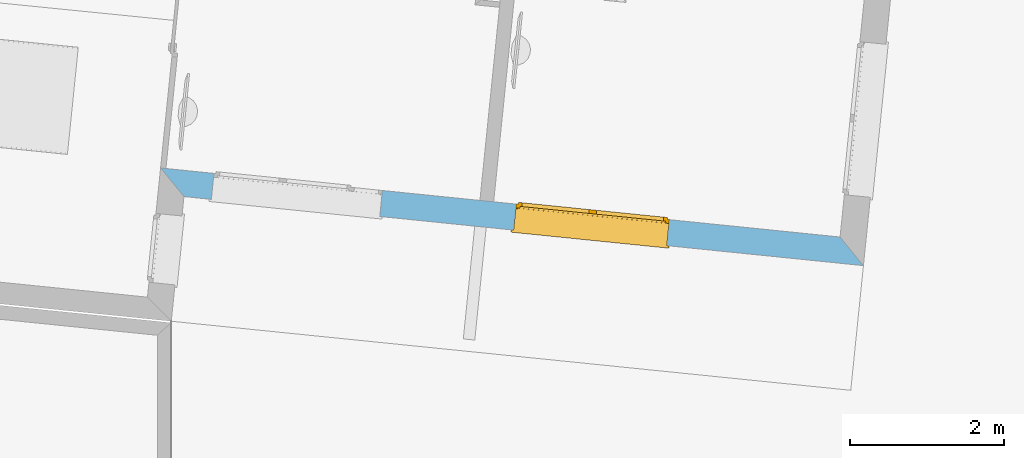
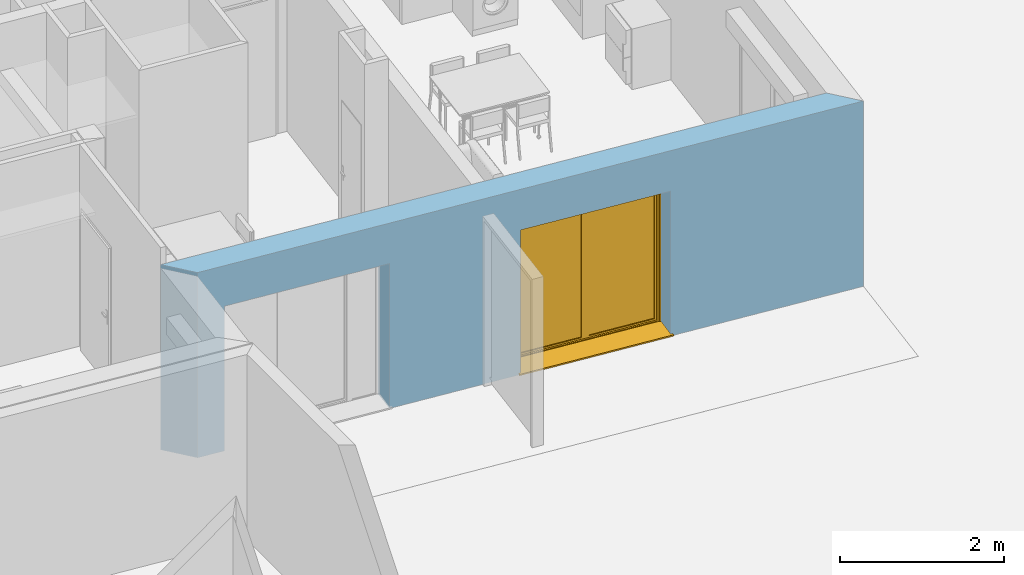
# One storey, part 59 of 171: 1 window, 2 openings, plus 1 element that does not belong to this part.
"""IFC2X3 building model written with IfcOpenShell, lengths in millimetres."""

from ifc_helpers import new_model, entity, si_unit, converted_unit, derived_unit, money_unit, direction, frame, origin_with_axes, place, context, subcontext, project, spatial, polyline, outline, extrude, open_shell, faceted_brep, surface_model, source, transform, mapped, material, layer, layer_set, layer_usage, type_object, element, fill, save


model = new_model("IFC2X3")

# Units and contexts
model_context = context("Model", 3, precision=0.01, world=origin_with_axes(), true_north=direction((0.0, 1.0)))
body_context = subcontext(model_context, "Body", "Model", "MODEL_VIEW")
ifc_project = project(units=[si_unit("LENGTHUNIT", "METRE", prefix="MILLI"), si_unit("AREAUNIT", "SQUARE_METRE"), si_unit("VOLUMEUNIT", "CUBIC_METRE"), converted_unit("PLANEANGLEUNIT", "DEGREE", entity("IfcPlaneAngleMeasure", 0.0174532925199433), si_unit("PLANEANGLEUNIT", "RADIAN"), dimensions=[0, 0, 0, 0, 0, 0, 0]), money_unit("USD"), converted_unit("TIMEUNIT", "Year", entity("IfcTimeMeasure", 31557600.0), si_unit("TIMEUNIT", "SECOND"), dimensions=[0, 0, 1, 0, 0, 0, 0]), si_unit("MASSUNIT", "GRAM", prefix="KILO"), si_unit("THERMODYNAMICTEMPERATUREUNIT", "DEGREE_CELSIUS"), si_unit("LUMINOUSINTENSITYUNIT", "LUMEN"), si_unit("ENERGYUNIT", "JOULE", prefix="MEGA"), derived_unit("THERMALCONDUCTANCEUNIT", [(si_unit("POWERUNIT", "WATT"), 1), (si_unit("LENGTHUNIT", "METRE"), -1), (si_unit("THERMODYNAMICTEMPERATUREUNIT", "KELVIN"), -1)]), derived_unit("SPECIFICHEATCAPACITYUNIT", [(si_unit("ENERGYUNIT", "JOULE"), 1), (si_unit("MASSUNIT", "GRAM", prefix="KILO"), -1), (si_unit("THERMODYNAMICTEMPERATUREUNIT", "KELVIN"), -1)]), derived_unit("MASSDENSITYUNIT", [(si_unit("MASSUNIT", "GRAM", prefix="KILO"), 1), (si_unit("VOLUMEUNIT", "CUBIC_METRE"), -1)])], contexts=[model_context])

# Site, building, storey
site_placement = place(None, origin_with_axes())
site = spatial("IfcSite", under=ifc_project, at=site_placement, Name="Site", CompositionType="ELEMENT")
building_placement = place(site_placement, origin_with_axes())
building = spatial("IfcBuilding", under=site, at=building_placement, Name="Bâtiment", CompositionType="ELEMENT")
storey_placement = place(building_placement, frame((0.0, 0.0, 3000.0), z_axis=(0.0, 0.0, 1.0), x_axis=(1.0, 0.0, 0.0)))
storey = spatial("IfcBuildingStorey", under=building, at=storey_placement, Name="rdc", CompositionType="ELEMENT", Elevation=3000.0)

# Wall, openings, window
ifc_material_1 = material(Name="Parpaing 312445824")
ifc_layer_1 = layer(ifc_material_1, 180.0, ventilated="UNKNOWN")
ifc_material_2 = material(Name="Isolant styromousse 301821074")
ifc_layer_2 = layer(ifc_material_2, 160.0, ventilated="UNKNOWN")
ifc_layer_set = layer_set([ifc_layer_1, ifc_layer_2], Name="isol int 18+16 0018356637")
ifc_layer_usage = layer_usage(ifc_layer_set, "AXIS2", "POSITIVE", 0.0)
wall_type = type_object("IfcWallType", Name="isol int 18+16 0018356637 340", PredefinedType="NOTDEFINED")
wall_placement = place(storey_placement, frame((2229820.133205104, -620392.5899683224, 0.0), z_axis=(0.0, 0.0, 1.0), x_axis=(0.994875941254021, -0.1011032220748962, 0.0)))
wall = element("IfcWallStandardCase", 1, at=wall_placement, inside=storey, type_object=wall_type, material=ifc_layer_usage, Name="Mur-142", context=body_context, shape_type="SweptSolid", body=[
    extrude(outline(polyline([(0.0, 0.0), (8878.452480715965, 0.0), (8538.452480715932, 339.9999999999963), (-339.9999999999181, 339.9999999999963), (0.0, 0.0)])), origin_with_axes(), (0.0, 0.0, 1.0), 2750.0),
])
opening_1_placement = place(wall_placement, frame((1458.062560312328, 0.0, 0.0), z_axis=(0.0, 0.0, 1.0), x_axis=(1.0, 0.0, 0.0)))
element("IfcOpeningElement", 2, at=opening_1_placement, cuts=wall, Name="Fen-133", context=body_context, shape_type="Brep", body=[
    faceted_brep([(-1100.000000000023, 529.9999999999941, 2150.0), (1099.999999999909, 529.9999999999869, 2150.0), (1100.000000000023, 1234.040591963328, 2150.0), (-1099.999999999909, 1234.040591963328, 2150.0), (-1100.000000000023, 529.9999999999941, 2400.0), (1099.999999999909, 529.9999999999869, 2400.0), (1100.000000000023, 289.999999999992, 2150.0), (1100.000000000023, 289.999999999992, 0.0), (1100.000000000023, 1234.040591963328, 0.0), (-1099.999999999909, 1234.040591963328, 0.0), (-1100.000000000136, 289.9999999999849, 2150.0), (-1100.000000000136, 289.9999999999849, 0.0), (-1100.000000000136, 279.9999999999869, 2150.0), (-1100.000000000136, 279.9999999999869, 2400.0), (1100.000000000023, 279.999999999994, 2400.0), (1100.000000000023, 279.999999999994, 2150.0), (1099.999999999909, -894.0405919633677, 2150.0), (1099.999999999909, -894.0405919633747, 0.0), (-1100.000000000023, -894.0405919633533, 0.0), (-1100.000000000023, -894.0405919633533, 2150.0)], [[[0, 1, 2, 3]], [[1, 0, 4, 5]], [[1, 6, 7, 8, 2]], [[2, 8, 9, 3]], [[10, 0, 3, 9, 11]], [[0, 10, 12, 13, 4]], [[14, 5, 4, 13]], [[6, 1, 5, 14, 15]], [[6, 15, 16, 17, 7]], [[7, 17, 18, 11, 9, 8]], [[12, 10, 11, 18, 19]], [[12, 15, 14, 13]], [[15, 12, 19, 16]], [[19, 18, 17, 16]]]),
])
opening_2_placement = place(wall_placement, frame((5307.912898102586, 0.0, 0.0), z_axis=(0.0, 0.0, 1.0), x_axis=(1.0, 0.0, 0.0)))
opening_2 = element("IfcOpeningElement", 3, at=opening_2_placement, cuts=wall, Name="Fen-207", context=body_context, shape_type="Brep", body=[
    faceted_brep([(-1000.000000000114, 529.9999999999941, 2150.0), (1000.0, 529.9999999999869, 2150.0), (1000.0, 1234.040591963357, 2150.0), (-1000.0, 1234.040591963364, 2150.0), (-1000.000000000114, 529.9999999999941, 2400.0), (1000.0, 529.9999999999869, 2400.0), (999.9999999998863, 289.9999999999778, 2150.0), (999.9999999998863, 289.9999999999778, 0.0), (1000.0, 1234.040591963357, 0.0), (-1000.0, 1234.040591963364, 0.0), (-1000.000000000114, 289.9999999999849, 2150.0), (-1000.000000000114, 289.9999999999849, 0.0), (-1000.0, 279.9999999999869, 2150.0), (-1000.0, 279.9999999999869, 2400.0), (999.9999999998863, 279.999999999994, 2400.0), (999.9999999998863, 279.999999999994, 2150.0), (999.9999999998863, -894.0405919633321, 2150.0), (999.9999999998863, -894.0405919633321, 0.0), (-1000.0, -894.0405919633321, 0.0), (-1000.0, -894.0405919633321, 2150.0)], [[[0, 1, 2, 3]], [[1, 0, 4, 5]], [[1, 6, 7, 8, 2]], [[2, 8, 9, 3]], [[10, 0, 3, 9, 11]], [[0, 10, 12, 13, 4]], [[14, 5, 4, 13]], [[6, 1, 5, 14, 15]], [[6, 15, 16, 17, 7]], [[7, 17, 18, 11, 9, 8]], [[12, 10, 11, 18, 19]], [[12, 15, 14, 13]], [[15, 12, 19, 16]], [[19, 18, 17, 16]]]),
])
window_style = type_object("IfcWindowStyle", Name="Fenêtre châssis double variable 27", ConstructionType="NOTDEFINED", OperationType="DOUBLE_PANEL_VERTICAL", ParameterTakesPrecedence=False, Sizeable=False)
shared_shape = source(origin_with_axes(), body_context, "Body", "SurfaceModel", [
    surface_model("IfcShellBasedSurfaceModel", [(1000.0, -51.00000000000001, 40.00000000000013), (1000.0, -51.00000000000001, 50.00000000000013), (-1000.0, -51.00000000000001, 50.0), (-1000.0, -51.00000000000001, 40.0), (1030.0, -369.9999999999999, 28.96551724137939), (1030.0, -339.9999999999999, 30.00324289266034), (1000.0, -339.9999999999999, 30.00324289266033), (-1000.0, -339.9999999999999, 30.00324289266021), (-1030.0, -339.9999999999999, 30.00324289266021), (-1030.0, -369.9999999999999, 28.96551724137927), (1030.0, -369.9999999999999, 8.965517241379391), (-1030.0, -369.9999999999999, 8.965517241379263), (1030.0, -359.9999999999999, 18.96551724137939), (-1030.0, -359.9999999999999, 18.96551724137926)], [open_shell([[[0, 1, 2, 3]], [[4, 5, 6, 0, 3, 7, 8, 9]], [[10, 4, 9, 11]], [[12, 10, 11, 13]]])]),
    faceted_brep([(-1000.0, -60.00000000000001, 2400.0), (-997.0, -60.00000000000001, 2400.0), (-997.0, 190.0, 2400.0), (-1000.0, 190.0, 2400.0), (-1000.0, -60.00000000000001, 2150.0), (-997.0, -60.00000000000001, 2150.0), (-997.0, 190.0, 2150.0), (-1000.0, 190.0, 2150.0)], [[[0, 1, 2, 3]], [[4, 5, 1, 0]], [[1, 5, 6, 2]], [[3, 2, 6, 7]], [[0, 3, 7, 4]], [[7, 6, 5, 4]]]),
    faceted_brep([(997.0000000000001, -59.99999999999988, 2400.0), (1000.0, -59.99999999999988, 2400.0), (1000.0, 190.0000000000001, 2400.0), (997.0000000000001, 190.0000000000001, 2400.0), (997.0000000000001, -59.99999999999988, 2150.0), (1000.0, -59.99999999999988, 2150.0), (1000.0, 190.0000000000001, 2150.0), (997.0000000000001, 190.0000000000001, 2150.0)], [[[0, 1, 2, 3]], [[4, 5, 1, 0]], [[1, 5, 6, 2]], [[3, 2, 6, 7]], [[0, 3, 7, 4]], [[7, 6, 5, 4]]]),
    faceted_brep([(-997.0, -60.0, 2150.0), (997.0, -59.99999999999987, 2150.0), (997.0, -59.99999999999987, 2400.0), (-997.0, -60.0, 2400.0), (-997.0, -56.99999999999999, 2150.0), (997.0, -56.99999999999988, 2150.0), (997.0, -56.99999999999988, 2397.0), (997.0, 187.0000000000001, 2397.0), (997.0, 187.0000000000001, 2153.0), (997.0, -37.99999999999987, 2153.0), (997.0, -37.99999999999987, 2150.0), (997.0, 190.0000000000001, 2150.0), (997.0, 190.0000000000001, 2400.0), (-997.0, 190.0, 2400.0), (-997.0, 190.0, 2150.0), (-997.0, -37.99999999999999, 2150.0), (-997.0, -37.99999999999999, 2153.0), (-997.0, 187.0, 2153.0), (-997.0, 187.0, 2397.0), (-997.0, -56.99999999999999, 2397.0)], [[[0, 1, 2, 3]], [[4, 5, 1, 0]], [[1, 5, 6, 7, 8, 9, 10, 11, 12, 2]], [[3, 2, 12, 13]], [[0, 3, 13, 14, 15, 16, 17, 18, 19, 4]], [[19, 6, 5, 4]], [[18, 7, 6, 19]], [[17, 8, 7, 18]], [[16, 9, 8, 17]], [[15, 10, 9, 16]], [[14, 11, 10, 15]], [[13, 12, 11, 14]]]),
    faceted_brep([(-994.0, -40.37442957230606, 2256.419644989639), (-994.0, -41.99999999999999, 2275.0), (-994.0, -40.37442957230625, 2293.580355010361), (-994.0, -35.54711042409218, 2311.596155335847), (-994.0, -27.66471820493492, 2328.5), (-994.0, -16.96675541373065, 2343.77827423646), (-994.0, -3.778274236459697, 2356.96675541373), (-994.0, 11.5, 2367.664718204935), (-994.0, 28.40384466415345, 2375.547110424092), (-994.0, 46.41964498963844, 2380.374429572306), (-994.0, 64.99999999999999, 2382.0), (-994.0, 83.58035501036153, 2380.374429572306), (-994.0, 101.5961553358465, 2375.547110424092), (-994.0, 118.5, 2367.664718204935), (-994.0, 133.7782742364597, 2356.96675541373), (-994.0, 146.9667554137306, 2343.77827423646), (-994.0, 157.6647182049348, 2328.5), (-994.0, 165.5471104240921, 2311.596155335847), (-994.0, 170.3744295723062, 2293.580355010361), (-994.0, 171.9999999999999, 2275.0), (-994.0, 170.3744295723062, 2256.419644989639), (-994.0, 165.5471104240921, 2238.403844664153), (-994.0, 157.6647182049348, 2221.5), (-994.0, 146.9667554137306, 2206.22172576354), (-994.0, 133.7782742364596, 2193.033244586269), (-994.0, 118.4999999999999, 2182.335281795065), (-994.0, 101.5961553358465, 2174.452889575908), (-994.0, 83.58035501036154, 2169.625570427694), (-994.0, 65.00000000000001, 2168.0), (-994.0, 46.4196449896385, 2169.625570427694), (-994.0, 28.40384466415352, 2174.452889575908), (-994.0, 11.50000000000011, 2182.335281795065), (-994.0, -3.778274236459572, 2193.033244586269), (-994.0, -16.9667554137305, 2206.22172576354), (-994.0, -27.66471820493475, 2221.5), (-994.0, -35.54711042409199, 2238.403844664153), (994.0, -40.37442957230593, 2256.419644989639), (994.0, -41.99999999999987, 2275.0), (994.0, -40.37442957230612, 2293.580355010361), (994.0, -35.54711042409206, 2311.596155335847), (994.0, -27.6647182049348, 2328.5), (994.0, -16.96675541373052, 2343.77827423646), (994.0, -3.778274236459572, 2356.96675541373), (994.0, 11.50000000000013, 2367.664718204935), (994.0, 28.40384466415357, 2375.547110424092), (994.0, 46.41964498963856, 2380.374429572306), (994.0, 65.00000000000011, 2382.0), (994.0, 83.58035501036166, 2380.374429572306), (994.0, 101.5961553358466, 2375.547110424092), (994.0, 118.5000000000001, 2367.664718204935), (994.0, 133.7782742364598, 2356.96675541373), (994.0, 146.9667554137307, 2343.77827423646), (994.0, 157.664718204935, 2328.5), (994.0, 165.5471104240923, 2311.596155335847), (994.0, 170.3744295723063, 2293.580355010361), (994.0, 172.0, 2275.0), (994.0, 170.3744295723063, 2256.419644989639), (994.0, 165.5471104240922, 2238.403844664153), (994.0, 157.6647182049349, 2221.5), (994.0, 146.9667554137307, 2206.22172576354), (994.0, 133.7782742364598, 2193.033244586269), (994.0, 118.5000000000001, 2182.335281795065), (994.0, 101.5961553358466, 2174.452889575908), (994.0, 83.58035501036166, 2169.625570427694), (994.0, 65.00000000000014, 2168.0), (994.0, 46.41964498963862, 2169.625570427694), (994.0, 28.40384466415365, 2174.452889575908), (994.0, 11.50000000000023, 2182.335281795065), (994.0, -3.778274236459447, 2193.033244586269), (994.0, -16.96675541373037, 2206.22172576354), (994.0, -27.66471820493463, 2221.5), (994.0, -35.54711042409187, 2238.403844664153)], [[[0, 1, 2, 3, 4, 5, 6, 7, 8, 9, 10, 11, 12, 13, 14, 15, 16, 17, 18, 19, 20, 21, 22, 23, 24, 25, 26, 27, 28, 29, 30, 31, 32, 33, 34, 35]], [[0, 36, 37, 1]], [[1, 37, 38, 2]], [[2, 38, 39, 3]], [[3, 39, 40, 4]], [[4, 40, 41, 5]], [[5, 41, 42, 6]], [[6, 42, 43, 7]], [[7, 43, 44, 8]], [[8, 44, 45, 9]], [[9, 45, 46, 10]], [[10, 46, 47, 11]], [[11, 47, 48, 12]], [[12, 48, 49, 13]], [[13, 49, 50, 14]], [[14, 50, 51, 15]], [[15, 51, 52, 16]], [[16, 52, 53, 17]], [[17, 53, 54, 18]], [[18, 54, 55, 19]], [[19, 55, 56, 20]], [[20, 56, 57, 21]], [[21, 57, 58, 22]], [[22, 58, 59, 23]], [[23, 59, 60, 24]], [[24, 60, 61, 25]], [[25, 61, 62, 26]], [[26, 62, 63, 27]], [[27, 63, 64, 28]], [[28, 64, 65, 29]], [[29, 65, 66, 30]], [[30, 66, 67, 31]], [[31, 67, 68, 32]], [[32, 68, 69, 33]], [[33, 69, 70, 34]], [[34, 70, 71, 35]], [[35, 71, 36, 0]], [[36, 71, 70, 69, 68, 67, 66, 65, 64, 63, 62, 61, 60, 59, 58, 57, 56, 55, 54, 53, 52, 51, 50, 49, 48, 47, 46, 45, 44, 43, 42, 41, 40, 39, 38, 37]]]),
    faceted_brep([(1000.0, -34.99999999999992, 30.0), (1000.0, -34.99999999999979, 2150.0), (1000.0, -59.99999999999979, 2150.0), (1000.0, -59.99999999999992, 30.0), (975.0, -34.99999999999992, 30.0), (975.0, -34.99999999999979, 2150.0), (975.0, -37.99999999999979, 2150.0), (997.0, -37.99999999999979, 2150.0), (997.0, -56.99999999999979, 2150.0), (975.0, -56.99999999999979, 2150.0), (975.0, -59.99999999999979, 2150.0), (975.0, -59.99999999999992, 30.0), (975.0, -56.99999999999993, 30.0), (997.0, -56.99999999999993, 30.0), (997.0, -37.99999999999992, 30.0), (975.0, -37.99999999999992, 30.0)], [[[0, 1, 2, 3]], [[4, 5, 1, 0]], [[1, 5, 6, 7, 8, 9, 10, 2]], [[3, 2, 10, 11]], [[0, 3, 11, 12, 13, 14, 15, 4]], [[15, 6, 5, 4]], [[14, 7, 6, 15]], [[13, 8, 7, 14]], [[12, 9, 8, 13]], [[11, 10, 9, 12]]]),
    faceted_brep([(-1000.0, -34.99999999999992, 30.0), (-1000.0, -59.99999999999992, 30.0), (-1000.0, -59.99999999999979, 2150.0), (-1000.0, -34.99999999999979, 2150.0), (-975.0, -34.99999999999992, 30.0), (-975.0, -37.99999999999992, 30.0), (-997.0, -37.99999999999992, 30.0), (-997.0, -56.99999999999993, 30.0), (-975.0, -56.99999999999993, 30.0), (-975.0, -59.99999999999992, 30.0), (-975.0, -59.99999999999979, 2150.0), (-975.0, -56.99999999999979, 2150.0), (-997.0, -56.99999999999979, 2150.0), (-997.0, -37.99999999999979, 2150.0), (-975.0, -37.99999999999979, 2150.0), (-975.0, -34.99999999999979, 2150.0)], [[[0, 1, 2, 3]], [[0, 4, 5, 6, 7, 8, 9, 1]], [[1, 9, 10, 2]], [[3, 2, 10, 11, 12, 13, 14, 15]], [[4, 0, 3, 15]], [[5, 4, 15, 14]], [[6, 5, 14, 13]], [[7, 6, 13, 12]], [[8, 7, 12, 11]], [[9, 8, 11, 10]]]),
    faceted_brep([(997.0, -46.66666666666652, 2275.0), (997.0, -46.66666666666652, 2266.666666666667), (-997.0, -46.66666666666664, 2266.666666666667), (-997.0, -46.66666666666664, 2275.0), (997.0, -51.66666666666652, 2275.0), (997.0, -51.66666666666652, 2266.666666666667), (997.0, -49.99999999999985, 2250.0), (997.0, -44.99999999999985, 2250.0), (-997.0, -44.99999999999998, 2250.0), (-997.0, -49.99999999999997, 2250.0), (-997.0, -51.66666666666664, 2266.666666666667), (-997.0, -51.66666666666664, 2275.0)], [[[0, 1, 2, 3]], [[4, 5, 6, 7, 1, 0]], [[2, 1, 7, 8]], [[3, 2, 8, 9, 10, 11]], [[3, 11, 4, 0]], [[10, 5, 4, 11]], [[9, 6, 5, 10]], [[8, 7, 6, 9]]]),
    faceted_brep([(-997.0, -44.99999999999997, 2250.0), (997.0, -44.99999999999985, 2250.0), (997.0, -46.66666666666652, 2233.333333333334), (-997.0, -46.66666666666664, 2233.333333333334), (-997.0, -49.99999999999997, 2250.0), (997.0, -49.99999999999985, 2250.0), (997.0, -51.66666666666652, 2233.333333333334), (997.0, -51.66666666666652, 2216.666666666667), (997.0, -49.99999999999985, 2200.0), (997.0, -44.99999999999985, 2200.0), (997.0, -46.66666666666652, 2216.666666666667), (-997.0, -46.66666666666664, 2216.666666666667), (-997.0, -44.99999999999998, 2200.0), (-997.0, -49.99999999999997, 2200.0), (-997.0, -51.66666666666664, 2216.666666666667), (-997.0, -51.66666666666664, 2233.333333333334)], [[[0, 1, 2, 3]], [[4, 5, 1, 0]], [[1, 5, 6, 7, 8, 9, 10, 2]], [[3, 2, 10, 11]], [[0, 3, 11, 12, 13, 14, 15, 4]], [[15, 6, 5, 4]], [[14, 7, 6, 15]], [[13, 8, 7, 14]], [[12, 9, 8, 13]], [[11, 10, 9, 12]]]),
    faceted_brep([(-997.0, -44.99999999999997, 2200.0), (997.0, -44.99999999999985, 2200.0), (997.0, -46.66666666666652, 2183.333333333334), (-997.0, -46.66666666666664, 2183.333333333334), (-997.0, -49.99999999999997, 2200.0), (997.0, -49.99999999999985, 2200.0), (997.0, -51.66666666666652, 2183.333333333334), (997.0, -51.66666666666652, 2166.666666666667), (997.0, -49.99999999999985, 2150.000000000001), (997.0, -44.99999999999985, 2150.000000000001), (997.0, -46.66666666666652, 2166.666666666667), (-997.0, -46.66666666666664, 2166.666666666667), (-997.0, -44.99999999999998, 2150.000000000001), (-997.0, -49.99999999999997, 2150.000000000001), (-997.0, -51.66666666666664, 2166.666666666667), (-997.0, -51.66666666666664, 2183.333333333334)], [[[0, 1, 2, 3]], [[4, 5, 1, 0]], [[1, 5, 6, 7, 8, 9, 10, 2]], [[3, 2, 10, 11]], [[0, 3, 11, 12, 13, 14, 15, 4]], [[15, 6, 5, 4]], [[14, 7, 6, 15]], [[13, 8, 7, 14]], [[12, 9, 8, 13]], [[11, 10, 9, 12]]]),
    faceted_brep([(-975.0, 0.0, 2100.0), (-1000.0, 0.0, 2100.0), (-1000.0, -50.00000000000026, 2100.0), (-950.0, -50.00000000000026, 2100.0), (-950.0, -25.00000000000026, 2100.0), (-975.0, -25.00000000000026, 2100.0), (-975.0, 0.0, 50.00000000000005), (-1000.0, 0.0, 50.00000000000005), (-1000.0, -50.00000000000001, 50.00000000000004), (-950.0, -50.00000000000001, 50.00000000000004), (-950.0, -25.00000000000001, 50.00000000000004), (-975.0, -25.00000000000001, 50.00000000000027)], [[[0, 1, 2, 3, 4, 5]], [[6, 7, 1, 0]], [[1, 7, 8, 2]], [[2, 8, 9, 3]], [[4, 3, 9, 10]], [[10, 11, 5, 4]], [[5, 11, 6, 0]], [[11, 10, 9, 8, 7, 6]]]),
    faceted_brep([(950.0, -25.00000000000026, 2100.0), (950.0, -50.00000000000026, 2100.0), (1000.0, -50.00000000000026, 2100.0), (1000.0, 0.0, 2100.0), (975.0, 0.0, 2100.0), (975.0, -25.00000000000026, 2100.0), (950.0, -25.00000000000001, 50.00000000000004), (950.0, -50.00000000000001, 50.00000000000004), (1000.0, -50.00000000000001, 50.00000000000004), (1000.0, 0.0, 50.00000000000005), (975.0, 0.0, 50.00000000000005), (975.0, -25.00000000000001, 50.00000000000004)], [[[0, 1, 2, 3, 4, 5]], [[6, 7, 1, 0]], [[8, 2, 1, 7]], [[9, 3, 2, 8]], [[4, 3, 9, 10]], [[10, 11, 5, 4]], [[5, 11, 6, 0]], [[11, 10, 9, 8, 7, 6]]]),
    faceted_brep([(950.0, -25.00000000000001, 50.00000000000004), (950.0, -50.00000000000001, 50.00000000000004), (1000.0, -50.00000000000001, 50.00000000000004), (1000.0, 0.0, 50.00000000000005), (975.0, 0.0, 50.00000000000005), (975.0, -25.00000000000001, 50.00000000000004), (-950.0, -25.00000000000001, 50.00000000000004), (-950.0, -50.00000000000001, 50.00000000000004), (-1000.0, -50.00000000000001, 50.00000000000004), (-1000.0, -50.0, 0.0), (1000.0, -50.0, 0.0), (1000.0, 0.0, 0.0), (-975.0, 0.0, 24.99999999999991), (975.0, 0.0, 24.99999999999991), (-1000.0, 0.0, 0.0), (-1000.0, 0.0, 50.00000000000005), (-975.0, 0.0, 50.00000000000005), (975.0, -25.0, 24.99999999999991), (-975.0, -25.0, 24.99999999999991), (-975.0, -25.00000000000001, 50.00000000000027)], [[[0, 1, 2, 3, 4, 5]], [[6, 7, 1, 0]], [[8, 9, 10, 2, 1, 7]], [[11, 3, 2, 10]], [[12, 13, 4, 3, 11, 14, 15, 16]], [[13, 17, 5, 4]], [[5, 17, 18, 19, 6, 0]], [[19, 16, 15, 8, 7, 6]], [[15, 14, 9, 8]], [[14, 11, 10, 9]], [[12, 18, 17, 13]], [[19, 18, 12, 16]]]),
    faceted_brep([(-975.0, 0.0, 2100.0), (-1000.0, 0.0, 2100.0), (-1000.0, 0.0, 2150.0), (1000.0, 0.0, 2150.0), (1000.0, 0.0, 2100.0), (975.0, 0.0, 2100.0), (975.0, 0.0, 2125.0), (-975.0, 0.0, 2125.0), (-975.0, -25.00000000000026, 2100.0), (-950.0, -25.00000000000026, 2100.0), (-950.0, -50.00000000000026, 2100.0), (-1000.0, -50.00000000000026, 2100.0), (-1000.0, -50.00000000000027, 2150.0), (1000.0, -50.00000000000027, 2150.0), (1000.0, -50.00000000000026, 2100.0), (975.0, -25.00000000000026, 2100.0), (950.0, -50.00000000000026, 2100.0), (950.0, -25.00000000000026, 2100.0), (975.0, -25.00000000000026, 2125.0), (-975.0, -25.00000000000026, 2125.0)], [[[0, 1, 2, 3, 4, 5, 6, 7]], [[8, 9, 10, 11, 1, 0]], [[2, 1, 11, 12]], [[3, 2, 12, 13]], [[4, 3, 13, 14]], [[15, 5, 4, 14, 16, 17]], [[5, 15, 18, 6]], [[6, 18, 19, 7]], [[7, 19, 8, 0]], [[17, 9, 8, 19, 18, 15]], [[17, 16, 10, 9]], [[14, 13, 12, 11, 10, 16]]]),
    faceted_brep([(-925.0, -25.00000000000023, 2075.0), (-925.0, 24.99999999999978, 2075.0), (-975.0, 24.99999999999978, 2075.0), (-975.0, -25.00000000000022, 2075.0), (-925.0, -24.99999999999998, 75.00000000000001), (-925.0, 25.00000000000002, 75.00000000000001), (-975.0, 25.00000000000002, 75.00000000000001), (-975.0, -24.99999999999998, 75.00000000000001)], [[[0, 1, 2, 3]], [[4, 5, 1, 0]], [[1, 5, 6, 2]], [[3, 2, 6, 7]], [[0, 3, 7, 4]], [[7, 6, 5, 4]]]),
    faceted_brep([(-49.99999999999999, -25.00000000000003, 75.00000000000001), (-49.99999999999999, 24.99999999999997, 75.00000000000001), (0.0, 24.99999999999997, 75.00000000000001), (0.0, -25.00000000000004, 75.00000000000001), (-49.99999999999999, -25.00000000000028, 2075.0), (-49.99999999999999, 24.99999999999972, 2075.0), (0.0, 24.99999999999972, 2075.0), (0.0, -25.00000000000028, 2075.0)], [[[0, 1, 2, 3]], [[4, 5, 1, 0]], [[1, 5, 6, 2]], [[3, 2, 6, 7]], [[0, 3, 7, 4]], [[7, 6, 5, 4]]]),
    faceted_brep([(0.0, -25.00000000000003, 25.0), (0.0, 24.99999999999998, 25.00000000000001), (0.0, 24.99999999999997, 75.00000000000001), (0.0, -25.00000000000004, 75.00000000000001), (-975.0, -24.99999999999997, 25.0), (-975.0, 25.00000000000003, 25.00000000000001), (-975.0, 25.00000000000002, 75.00000000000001), (-925.0, 25.00000000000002, 75.00000000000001), (-49.99999999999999, 24.99999999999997, 75.00000000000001), (-49.99999999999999, -25.00000000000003, 75.00000000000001), (-925.0, -24.99999999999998, 75.00000000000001), (-975.0, -24.99999999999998, 75.00000000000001)], [[[0, 1, 2, 3]], [[4, 5, 1, 0]], [[1, 5, 6, 7, 8, 2]], [[3, 2, 8, 9]], [[0, 3, 9, 10, 11, 4]], [[11, 6, 5, 4]], [[10, 7, 6, 11]], [[9, 8, 7, 10]]]),
    faceted_brep([(-975.0, -25.00000000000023, 2125.0), (-975.0, 24.99999999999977, 2125.0), (-975.0, 24.99999999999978, 2075.0), (-975.0, -25.00000000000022, 2075.0), (0.0, -25.00000000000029, 2125.0), (0.0, 24.99999999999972, 2125.0), (0.0, 24.99999999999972, 2075.0), (-49.99999999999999, 24.99999999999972, 2075.0), (-925.0, 24.99999999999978, 2075.0), (-925.0, -25.00000000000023, 2075.0), (-49.99999999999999, -25.00000000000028, 2075.0), (0.0, -25.00000000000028, 2075.0)], [[[0, 1, 2, 3]], [[4, 5, 1, 0]], [[1, 5, 6, 7, 8, 2]], [[3, 2, 8, 9]], [[0, 3, 9, 10, 11, 4]], [[11, 6, 5, 4]], [[10, 7, 6, 11]], [[9, 8, 7, 10]]]),
    surface_model("IfcShellBasedSurfaceModel", [(-925.0, -10.00000000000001, 75.00000000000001), (-49.99999999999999, -10.00000000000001, 75.00000000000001), (-49.99999999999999, -10.00000000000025, 2075.0), (-925.0, -10.00000000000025, 2075.0)], [open_shell([[[0, 1, 2, 3]]])]),
    surface_model("IfcShellBasedSurfaceModel", [(-925.0, 9.999999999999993, 75.00000000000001), (-925.0, 9.99999999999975, 2075.0), (-49.99999999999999, 9.99999999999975, 2075.0), (-49.99999999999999, 9.999999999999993, 75.00000000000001)], [open_shell([[[0, 1, 2, 3]]])]),
    faceted_brep([(49.99999999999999, -25.00000000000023, 2075.0), (49.99999999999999, 24.99999999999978, 2075.0), (0.0, 24.99999999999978, 2075.0), (0.0, -25.00000000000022, 2075.0), (49.99999999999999, -24.99999999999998, 75.00000000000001), (49.99999999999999, 25.00000000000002, 75.00000000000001), (0.0, 25.00000000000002, 75.00000000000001), (0.0, -24.99999999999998, 75.00000000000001)], [[[0, 1, 2, 3]], [[4, 5, 1, 0]], [[1, 5, 6, 2]], [[3, 2, 6, 7]], [[0, 3, 7, 4]], [[7, 6, 5, 4]]]),
    faceted_brep([(925.0, -25.00000000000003, 75.00000000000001), (925.0, 24.99999999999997, 75.00000000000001), (975.0, 24.99999999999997, 75.00000000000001), (975.0, -25.00000000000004, 75.00000000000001), (925.0, -25.00000000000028, 2075.0), (925.0, 24.99999999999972, 2075.0), (975.0, 24.99999999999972, 2075.0), (975.0, -25.00000000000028, 2075.0)], [[[0, 1, 2, 3]], [[4, 5, 1, 0]], [[1, 5, 6, 2]], [[3, 2, 6, 7]], [[0, 3, 7, 4]], [[7, 6, 5, 4]]]),
    faceted_brep([(975.0, -25.00000000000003, 25.0), (975.0, 24.99999999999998, 25.00000000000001), (975.0, 24.99999999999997, 75.00000000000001), (975.0, -25.00000000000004, 75.00000000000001), (0.0, -24.99999999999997, 25.0), (0.0, 25.00000000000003, 25.00000000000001), (0.0, 25.00000000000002, 75.00000000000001), (49.99999999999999, 25.00000000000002, 75.00000000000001), (925.0, 24.99999999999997, 75.00000000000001), (925.0, -25.00000000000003, 75.00000000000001), (49.99999999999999, -24.99999999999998, 75.00000000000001), (0.0, -24.99999999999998, 75.00000000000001)], [[[0, 1, 2, 3]], [[4, 5, 1, 0]], [[1, 5, 6, 7, 8, 2]], [[3, 2, 8, 9]], [[0, 3, 9, 10, 11, 4]], [[11, 6, 5, 4]], [[10, 7, 6, 11]], [[9, 8, 7, 10]]]),
    faceted_brep([(0.0, -25.00000000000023, 2125.0), (0.0, 24.99999999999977, 2125.0), (0.0, 24.99999999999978, 2075.0), (0.0, -25.00000000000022, 2075.0), (975.0, -25.00000000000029, 2125.0), (975.0, 24.99999999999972, 2125.0), (975.0, 24.99999999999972, 2075.0), (925.0, 24.99999999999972, 2075.0), (49.99999999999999, 24.99999999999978, 2075.0), (49.99999999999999, -25.00000000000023, 2075.0), (925.0, -25.00000000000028, 2075.0), (975.0, -25.00000000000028, 2075.0)], [[[0, 1, 2, 3]], [[4, 5, 1, 0]], [[1, 5, 6, 7, 8, 2]], [[3, 2, 8, 9]], [[0, 3, 9, 10, 11, 4]], [[11, 6, 5, 4]], [[10, 7, 6, 11]], [[9, 8, 7, 10]]]),
    surface_model("IfcShellBasedSurfaceModel", [(49.99999999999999, -10.00000000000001, 75.00000000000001), (925.0, -10.00000000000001, 75.00000000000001), (925.0, -10.00000000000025, 2075.0), (49.99999999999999, -10.00000000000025, 2075.0)], [open_shell([[[0, 1, 2, 3]]])]),
    surface_model("IfcShellBasedSurfaceModel", [(49.99999999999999, 9.999999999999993, 75.00000000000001), (49.99999999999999, 9.99999999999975, 2075.0), (925.0, 9.99999999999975, 2075.0), (925.0, 9.999999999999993, 75.00000000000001)], [open_shell([[[0, 1, 2, 3]]])]),
])
window_placement = place(opening_2_placement, frame((-1000.0, 0.0, 0.0), z_axis=(0.0, 0.0, 1.0), x_axis=(1.0, 0.0, 0.0)))
window = element("IfcWindow", 4, at=window_placement, inside=storey, type_object=window_style, Name="Fen-207", OverallHeight=2150.0, OverallWidth=2000.0, context=body_context, shape_type="MappedRepresentation", body=[
    mapped(shared_shape, transform((999.9999999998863, 339.9999999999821, 0.0))),
])
fill(opening_2, window)

save(model, "model.ifc")
